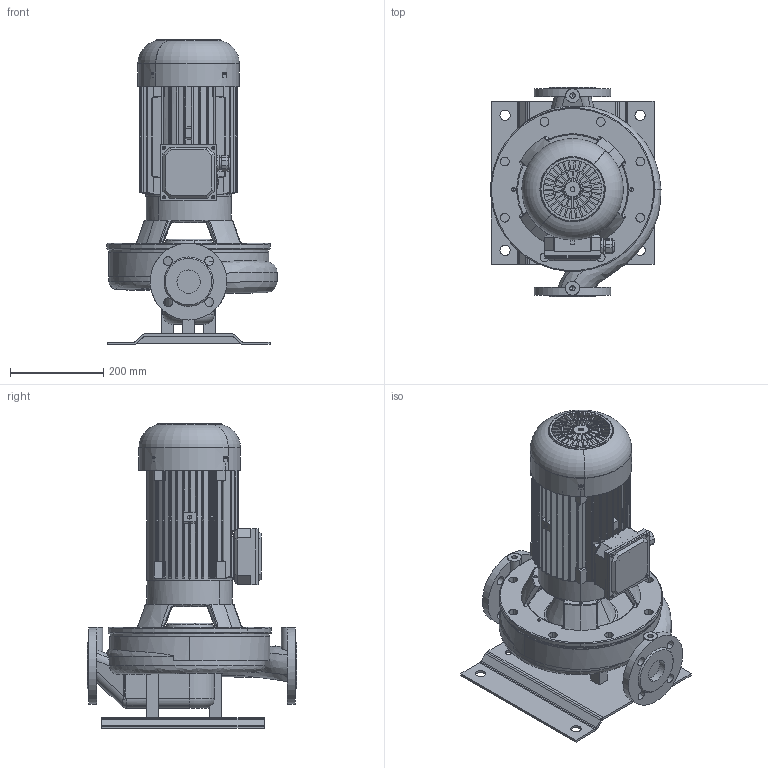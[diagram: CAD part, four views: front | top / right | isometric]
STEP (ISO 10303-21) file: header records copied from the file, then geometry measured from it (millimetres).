
FILE_DESCRIPTION(('STEP AP214'),'1');
FILE_NAME('export.stp','2018-05-29T06:51:36',(' '),(' '),'Spatial InterOp 3D',' ',' ');
FILE_SCHEMA(('AUTOMOTIVE_DESIGN { 1 0 10303 214 1 1 1 1 }'));
Length unit declared in the file: millimetre
Products named in the file (19): W_L50S4400_KP112; V_TLL50S80S; V_PPL50S; P100496; P100495; P100342; 440017; 440016; V_MKP112_2_F29; 480016; 480015; 440018; 440021; 480022; 480020; 480021; 480023; M25_Blind_Plug; M25_tiivisteholkk
Assembly tree (19 placements, depth 4):
  W_L50S4400_KP112
    V_TLL50S80S
    V_PPL50S
    P100496
      P100495  x2
      P100342
    V_MKP112_2_F29
      440017
        440016
      480016
        480015
      440018
      440021
      480022
      480020
      480021
      480023
      M25_Blind_Plug
      M25_tiivisteholkk
Bounding box: 365.33 x 450 x 655.1 mm (x, y, z)
Volume: 12589193.4 mm3; surface area: 2202227.2 mm2
Topology: 15 solids, 15 shells, 1792 faces, 5001 edges, 3265 vertices
Faces by surface type: cylinder 840, plane 600, cone 140, torus 117, bspline 88, sphere 7
Entity records: 72098 total; most frequent: CARTESIAN_POINT 22975, ORIENTED_EDGE 9936, DIRECTION 9417, EDGE_CURVE 4968, AXIS2_PLACEMENT_3D 3611, VERTEX_POINT 3257, LINE 2195, VECTOR 2195
